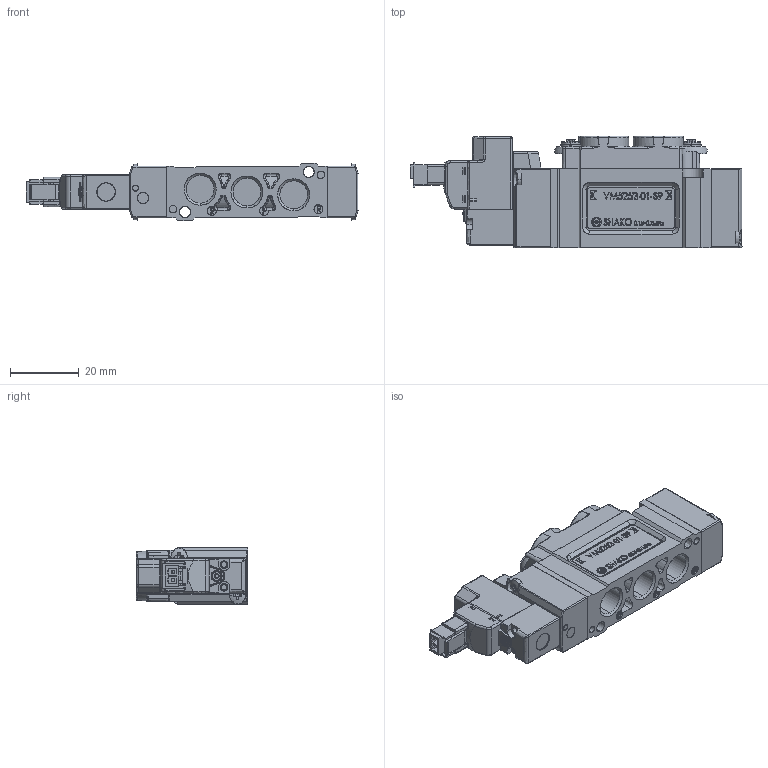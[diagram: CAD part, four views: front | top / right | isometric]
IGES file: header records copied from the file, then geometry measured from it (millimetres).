
Start section: SolidWorks IGES file using analytic representation for surfaces
Global section: file name: C:\Documents and Settings\Administrator\桌面\新資料夾 (2)\VM5252-01-S.IGS; native system: SolidWorks 2012; preprocessor: SolidWorks 2012; author: Administrator; date: 150730.165638; units: millimetre
Bounding box: 96.55 x 32.5 x 16.6 mm (x, y, z)
Surface area: 19138.4 mm2 (no closed solid volume)
Topology: 0 solids, 0 shells, 2430 faces, 29342 edges, 35508 vertices
Faces by surface type: bspline 1567, revolution 863
